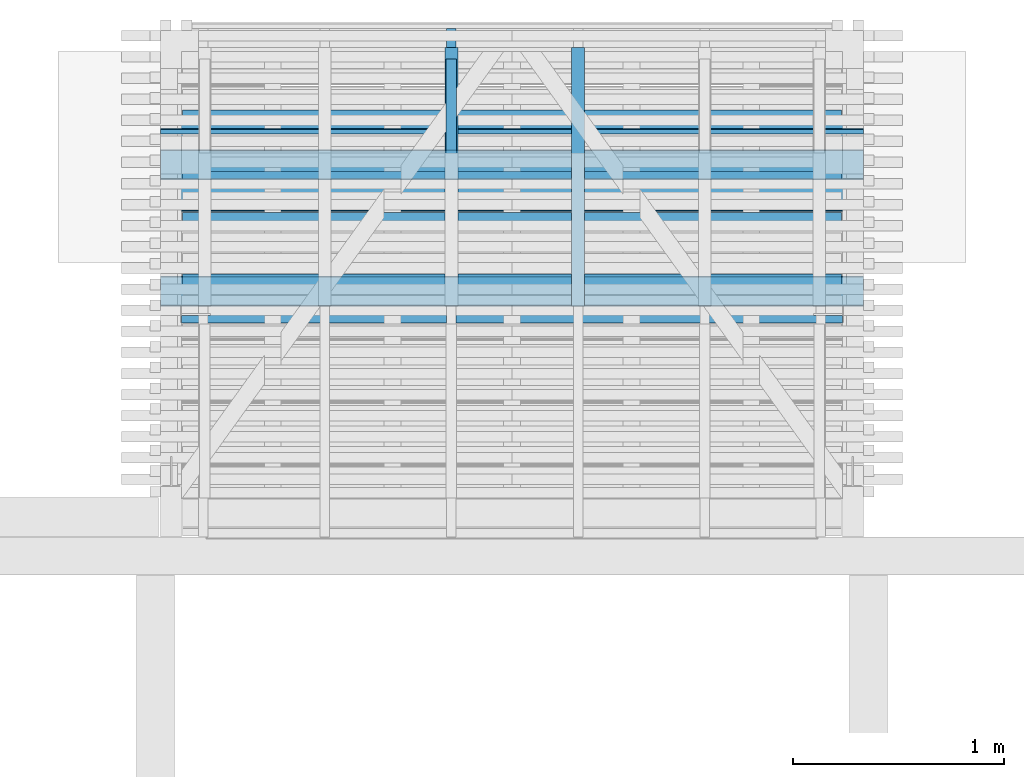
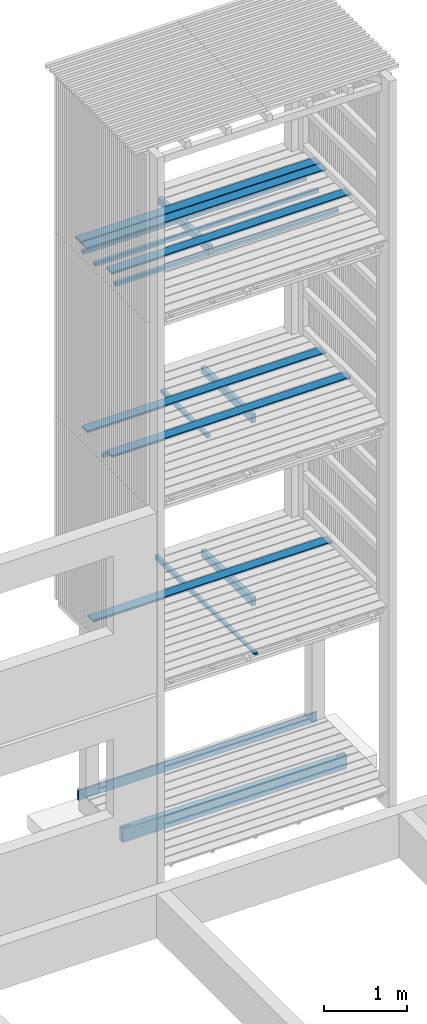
# One storey, part 74 of 182: 17 beams.
"""IFC2X3 building model written with IfcOpenShell, lengths in metres."""

from ifc_helpers import new_model, si_unit, frame, origin, place, context, project, spatial, faceted_brep, element, save


model = new_model("IFC2X3")

# Units and contexts
model_context = context("Model", 3, precision=1e-06, world=origin())
ifc_project = project(units=[si_unit("LENGTHUNIT", "METRE"), si_unit("PLANEANGLEUNIT", "RADIAN")], contexts=[model_context])

# Site, building, storey
site = spatial("IfcSite", under=ifc_project, CompositionType="ELEMENT")
building = spatial("IfcBuilding", under=site, CompositionType="ELEMENT")
storey = spatial("IfcBuildingStorey", under=building, Name="vs", CompositionType="ELEMENT", Elevation=-0.85)

# Beams
placement = place(None, origin())
beam_1_placement = place(placement, frame((25.022999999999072, 11.565077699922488, 2.604249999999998), z_axis=(0.0, 0.0, 1.0), x_axis=(0.0, 1.0, 0.0)))
element("IfcBeam", 1, at=beam_1_placement, inside=storey, Name="Solive", context=model_context, shape_type="Brep", body=[
    faceted_brep([(0.0, -0.030000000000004, -0.06185), (1.225000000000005, -0.030000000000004, -0.06185), (1.225000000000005, -0.030000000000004, 0.037349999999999), (0.0, -0.030000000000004, 0.06185), (0.0, 0.029999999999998, 0.06185), (0.0, 0.029999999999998, -0.06185), (0.0, -0.030000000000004, -0.06185), (0.0, -0.030000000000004, 0.06185), (0.0, -0.030000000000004, -0.06185), (0.0, 0.029999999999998, -0.06185), (1.225000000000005, 0.029999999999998, -0.06185), (1.225000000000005, -0.030000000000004, -0.06185), (1.225000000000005, 0.029999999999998, -0.06185), (0.0, 0.029999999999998, -0.06185), (0.0, 0.029999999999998, 0.06185), (1.225000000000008, 0.029999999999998, 0.037349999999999), (1.225000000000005, -0.030000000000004, 0.037349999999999), (1.225000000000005, -0.030000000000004, -0.06185), (1.225000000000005, 0.029999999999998, -0.06185), (1.225000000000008, 0.029999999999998, 0.037349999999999), (0.0, -0.030000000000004, 0.06185), (1.225000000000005, -0.030000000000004, 0.037349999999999), (1.225000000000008, 0.029999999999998, 0.037349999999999), (0.0, 0.029999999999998, 0.06185)], [[[0, 1, 2, 3]], [[4, 5, 6, 7]], [[8, 9, 10, 11]], [[12, 13, 14, 15]], [[16, 17, 18, 19]], [[20, 21, 22, 23]]]),
])
beam_2_placement = place(placement, frame((26.374999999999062, 12.084577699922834, 2.733499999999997), z_axis=(0.0, 0.0, 1.0), x_axis=(-1.0, -1e-14, 0.0)))
element("IfcBeam", 2, at=beam_2_placement, inside=storey, Name="Caillebotis", context=model_context, shape_type="Brep", body=[
    faceted_brep([(3.329999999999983, -0.072500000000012, -0.013499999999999), (3.329999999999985, 0.072499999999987, -0.013499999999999), (3.329999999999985, 0.072499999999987, 0.0085), (3.329999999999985, 0.067499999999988, 0.013500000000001), (3.329999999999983, -0.067500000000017, 0.013500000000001), (3.329999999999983, -0.072500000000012, 0.008500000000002), (-1.5e-14, -0.072499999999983, 0.008500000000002), (-1.5e-14, -0.067499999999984, 0.013500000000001), (-1.4e-14, 0.067500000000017, 0.0135), (-1.4e-14, 0.072500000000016, 0.008500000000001), (-1.4e-14, 0.072500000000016, -0.013499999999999), (-1.5e-14, -0.072499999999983, -0.013499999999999), (3.329999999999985, 0.072499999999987, 0.0085), (3.329999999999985, 0.072499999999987, -0.013499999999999), (-1.4e-14, 0.072500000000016, -0.013499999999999), (-1.4e-14, 0.072500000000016, 0.008500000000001), (3.329999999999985, 0.067499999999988, 0.013500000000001), (3.329999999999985, 0.072499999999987, 0.0085), (-1.4e-14, 0.072500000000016, 0.008500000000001), (-1.4e-14, 0.067500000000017, 0.0135), (3.329999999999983, -0.067500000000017, 0.013500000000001), (3.329999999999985, 0.067499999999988, 0.013500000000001), (-1.4e-14, 0.067500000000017, 0.0135), (-1.5e-14, -0.067499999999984, 0.013500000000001), (3.329999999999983, -0.072500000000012, 0.008500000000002), (3.329999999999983, -0.067500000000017, 0.013500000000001), (-1.5e-14, -0.067499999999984, 0.013500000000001), (-1.5e-14, -0.072499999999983, 0.008500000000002), (3.329999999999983, -0.072500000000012, -0.013499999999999), (3.329999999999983, -0.072500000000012, 0.008500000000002), (-1.5e-14, -0.072499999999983, 0.008500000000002), (-1.5e-14, -0.072499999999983, -0.013499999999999), (-1.4e-14, 0.072500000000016, -0.013499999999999), (3.329999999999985, 0.072499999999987, -0.013499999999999), (3.329999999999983, -0.072500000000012, -0.013499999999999), (-1.5e-14, -0.072499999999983, -0.013499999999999)], [[[0, 1, 2, 3, 4, 5]], [[6, 7, 8, 9, 10, 11]], [[12, 13, 14, 15]], [[16, 17, 18, 19]], [[20, 21, 22, 23]], [[24, 25, 26, 27]], [[28, 29, 30, 31]], [[32, 33, 34, 35]]]),
])
beam_3_placement = place(placement, frame((26.269999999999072, 11.69216103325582, 7.86739999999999), z_axis=(0.0, 0.0, 1.0), x_axis=(-1.0, 0.0, 0.0)))
element("IfcBeam", 3, at=beam_3_placement, inside=storey, Name="Bardage", context=model_context, shape_type="Brep", body=[
    faceted_brep([(3.120000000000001, 0.024999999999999, -0.024999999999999), (3.120000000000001, 0.024999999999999, 0.025000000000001), (3.120000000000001, -0.024999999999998, 0.025000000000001), (3.120000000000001, -0.024999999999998, -0.024999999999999), (-3e-15, -0.025000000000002, -0.024999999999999), (-3e-15, -0.025000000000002, 0.025000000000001), (-3e-15, 0.024999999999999, 0.025000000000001), (-3e-15, 0.024999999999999, -0.024999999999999), (-3e-15, 0.024999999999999, -0.024999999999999), (-3e-15, 0.024999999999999, 0.025000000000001), (3.120000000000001, 0.024999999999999, 0.025000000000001), (3.120000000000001, 0.024999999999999, -0.024999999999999), (-3e-15, 0.024999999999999, 0.025000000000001), (-3e-15, -0.025000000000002, 0.025000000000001), (3.120000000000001, -0.024999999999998, 0.025000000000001), (3.120000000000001, 0.024999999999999, 0.025000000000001), (-3e-15, -0.025000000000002, 0.025000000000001), (-3e-15, -0.025000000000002, -0.024999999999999), (3.120000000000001, -0.024999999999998, -0.024999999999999), (3.120000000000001, -0.024999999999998, 0.025000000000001), (-3e-15, -0.025000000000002, -0.024999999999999), (-3e-15, 0.024999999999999, -0.024999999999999), (3.120000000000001, 0.024999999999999, -0.024999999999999), (3.120000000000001, -0.024999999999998, -0.024999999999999)], [[[0, 1, 2, 3]], [[4, 5, 6, 7]], [[8, 9, 10, 11]], [[12, 13, 14, 15]], [[16, 17, 18, 19]], [[20, 21, 22, 23]]]),
])
beam_4_placement = place(placement, frame((26.374999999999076, 12.234577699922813, 8.13349999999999), z_axis=(0.0, 0.0, 1.0), x_axis=(-1.0, 0.0, 0.0)))
element("IfcBeam", 4, at=beam_4_placement, inside=storey, Name="Caillebotis", context=model_context, shape_type="Brep", body=[
    faceted_brep([(3.329999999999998, -0.072499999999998, -0.013500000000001), (3.329999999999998, 0.072499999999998, -0.013500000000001), (3.329999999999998, 0.072499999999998, 0.008499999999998), (3.329999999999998, 0.067500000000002, 0.013499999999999), (3.329999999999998, -0.067500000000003, 0.013499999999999), (3.329999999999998, -0.072499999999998, 0.0085), (0.0, -0.072500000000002, 0.0085), (0.0, -0.067500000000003, 0.013499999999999), (0.0, 0.067499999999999, 0.013499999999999), (0.0, 0.072499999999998, 0.008499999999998), (0.0, 0.072499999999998, -0.013500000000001), (0.0, -0.072500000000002, -0.013500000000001), (3.329999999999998, 0.072499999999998, 0.008499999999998), (3.329999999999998, 0.072499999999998, -0.013500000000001), (0.0, 0.072499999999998, -0.013500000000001), (0.0, 0.072499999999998, 0.008499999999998), (3.329999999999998, 0.067500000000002, 0.013499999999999), (3.329999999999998, 0.072499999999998, 0.008499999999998), (0.0, 0.072499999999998, 0.008499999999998), (0.0, 0.067499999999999, 0.013499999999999), (3.329999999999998, -0.067500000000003, 0.013499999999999), (3.329999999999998, 0.067500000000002, 0.013499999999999), (0.0, 0.067499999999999, 0.013499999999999), (0.0, -0.067500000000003, 0.013499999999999), (3.329999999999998, -0.072499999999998, 0.0085), (3.329999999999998, -0.067500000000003, 0.013499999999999), (0.0, -0.067500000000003, 0.013499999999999), (0.0, -0.072500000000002, 0.0085), (3.329999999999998, -0.072499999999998, -0.013500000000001), (3.329999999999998, -0.072499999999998, 0.0085), (0.0, -0.072500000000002, 0.0085), (0.0, -0.072500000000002, -0.013500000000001), (0.0, 0.072499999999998, -0.013500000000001), (3.329999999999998, 0.072499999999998, -0.013500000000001), (3.329999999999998, -0.072499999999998, -0.013500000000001), (0.0, -0.072500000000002, -0.013500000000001)], [[[0, 1, 2, 3, 4, 5]], [[6, 7, 8, 9, 10, 11]], [[12, 13, 14, 15]], [[16, 17, 18, 19]], [[20, 21, 22, 23]], [[24, 25, 26, 27]], [[28, 29, 30, 31]], [[32, 33, 34, 35]]]),
])
beam_5_placement = place(placement, frame((26.374999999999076, 11.634577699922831, 8.13349999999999), z_axis=(0.0, 0.0, 1.0), x_axis=(-1.0, -1e-14, 0.0)))
element("IfcBeam", 5, at=beam_5_placement, inside=storey, Name="Caillebotis", context=model_context, shape_type="Brep", body=[
    faceted_brep([(3.329999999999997, -0.072500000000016, -0.013500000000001), (3.329999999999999, 0.072499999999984, -0.013500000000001), (3.329999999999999, 0.072499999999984, 0.008499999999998), (3.329999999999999, 0.067499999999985, 0.013499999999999), (3.329999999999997, -0.067500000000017, 0.013499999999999), (3.329999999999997, -0.072500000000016, 0.0085), (-1e-15, -0.072499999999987, 0.0085), (-1e-15, -0.067499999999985, 0.013499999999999), (1e-15, 0.067500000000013, 0.013499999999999), (1e-15, 0.072500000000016, 0.008499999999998), (1e-15, 0.072500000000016, -0.013500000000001), (-1e-15, -0.072499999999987, -0.013500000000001), (3.329999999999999, 0.072499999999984, 0.008499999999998), (3.329999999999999, 0.072499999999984, -0.013500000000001), (1e-15, 0.072500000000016, -0.013500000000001), (1e-15, 0.072500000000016, 0.008499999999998), (3.329999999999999, 0.067499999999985, 0.013499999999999), (3.329999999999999, 0.072499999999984, 0.008499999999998), (1e-15, 0.072500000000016, 0.008499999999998), (1e-15, 0.067500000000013, 0.013499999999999), (3.329999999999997, -0.067500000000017, 0.013499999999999), (3.329999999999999, 0.067499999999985, 0.013499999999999), (1e-15, 0.067500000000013, 0.013499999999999), (-1e-15, -0.067499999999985, 0.013499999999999), (3.329999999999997, -0.072500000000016, 0.0085), (3.329999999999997, -0.067500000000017, 0.013499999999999), (-1e-15, -0.067499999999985, 0.013499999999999), (-1e-15, -0.072499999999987, 0.0085), (3.329999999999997, -0.072500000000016, -0.013500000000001), (3.329999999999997, -0.072500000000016, 0.0085), (-1e-15, -0.072499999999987, 0.0085), (-1e-15, -0.072499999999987, -0.013500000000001), (1e-15, 0.072500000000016, -0.013500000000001), (3.329999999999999, 0.072499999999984, -0.013500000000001), (3.329999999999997, -0.072500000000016, -0.013500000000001), (-1e-15, -0.072499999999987, -0.013500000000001)], [[[0, 1, 2, 3, 4, 5]], [[6, 7, 8, 9, 10, 11]], [[12, 13, 14, 15]], [[16, 17, 18, 19]], [[20, 21, 22, 23]], [[24, 25, 26, 27]], [[28, 29, 30, 31]], [[32, 33, 34, 35]]]),
])
beam_6_placement = place(placement, frame((26.269999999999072, 12.468827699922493, 7.86739999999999), z_axis=(0.0, 0.0, 1.0), x_axis=(-1.0, 0.0, 0.0)))
element("IfcBeam", 6, at=beam_6_placement, inside=storey, Name="Bardage", context=model_context, shape_type="Brep", body=[
    faceted_brep([(3.120000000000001, 0.025000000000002, -0.024999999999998), (3.120000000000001, 0.025000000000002, 0.025000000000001), (3.120000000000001, -0.024999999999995, 0.025000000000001), (3.120000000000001, -0.024999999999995, -0.024999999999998), (-3e-15, -0.024999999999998, -0.024999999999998), (-3e-15, -0.024999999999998, 0.025000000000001), (-3e-15, 0.025000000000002, 0.025000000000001), (-3e-15, 0.025000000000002, -0.024999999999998), (-3e-15, 0.025000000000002, -0.024999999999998), (-3e-15, 0.025000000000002, 0.025000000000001), (3.120000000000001, 0.025000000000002, 0.025000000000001), (3.120000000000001, 0.025000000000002, -0.024999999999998), (-3e-15, 0.025000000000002, 0.025000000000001), (-3e-15, -0.024999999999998, 0.025000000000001), (3.120000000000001, -0.024999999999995, 0.025000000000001), (3.120000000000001, 0.025000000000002, 0.025000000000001), (-3e-15, -0.024999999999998, 0.025000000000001), (-3e-15, -0.024999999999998, -0.024999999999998), (3.120000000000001, -0.024999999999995, -0.024999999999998), (3.120000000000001, -0.024999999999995, 0.025000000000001), (-3e-15, -0.024999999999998, -0.024999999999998), (-3e-15, 0.025000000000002, -0.024999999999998), (3.120000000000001, 0.025000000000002, -0.024999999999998), (3.120000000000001, -0.024999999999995, -0.024999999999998)], [[[0, 1, 2, 3]], [[4, 5, 6, 7]], [[8, 9, 10, 11]], [[12, 13, 14, 15]], [[16, 17, 18, 19]], [[20, 21, 22, 23]]]),
])
beam_7_placement = place(placement, frame((25.022999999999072, 11.565077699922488, 5.304249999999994), z_axis=(0.0, 0.0, 1.0), x_axis=(0.0, 1.0, 0.0)))
element("IfcBeam", 7, at=beam_7_placement, inside=storey, Name="Solive", context=model_context, shape_type="Brep", body=[
    faceted_brep([(0.0, -0.030000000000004, -0.061849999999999), (1.225000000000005, -0.030000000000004, -0.061849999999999), (1.225000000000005, -0.030000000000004, 0.03735), (0.0, -0.030000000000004, 0.06185), (0.0, 0.029999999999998, 0.061850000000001), (0.0, 0.029999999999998, -0.061849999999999), (0.0, -0.030000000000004, -0.061849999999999), (0.0, -0.030000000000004, 0.06185), (0.0, -0.030000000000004, -0.061849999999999), (0.0, 0.029999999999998, -0.061849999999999), (1.225000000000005, 0.029999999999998, -0.061849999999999), (1.225000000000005, -0.030000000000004, -0.061849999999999), (1.225000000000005, 0.029999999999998, -0.061849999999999), (0.0, 0.029999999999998, -0.061849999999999), (0.0, 0.029999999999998, 0.061850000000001), (1.225000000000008, 0.029999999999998, 0.03735), (1.225000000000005, -0.030000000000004, 0.03735), (1.225000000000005, -0.030000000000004, -0.061849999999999), (1.225000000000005, 0.029999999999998, -0.061849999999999), (1.225000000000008, 0.029999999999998, 0.03735), (0.0, -0.030000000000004, 0.06185), (1.225000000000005, -0.030000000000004, 0.03735), (1.225000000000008, 0.029999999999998, 0.03735), (0.0, 0.029999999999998, 0.061850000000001)], [[[0, 1, 2, 3]], [[4, 5, 6, 7]], [[8, 9, 10, 11]], [[12, 13, 14, 15]], [[16, 17, 18, 19]], [[20, 21, 22, 23]]]),
])
beam_8_placement = place(placement, frame((24.422999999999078, 11.565077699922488, 8.00424999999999), z_axis=(0.0, 0.0, 1.0), x_axis=(0.0, 1.0, 0.0)))
element("IfcBeam", 8, at=beam_8_placement, inside=storey, Name="Solive", context=model_context, shape_type="Brep", body=[
    faceted_brep([(0.0, -0.029999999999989, -0.061849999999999), (1.225000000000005, -0.029999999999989, -0.061849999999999), (1.225000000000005, -0.029999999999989, 0.037349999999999), (0.0, -0.029999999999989, 0.061849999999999), (0.0, 0.029999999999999, -0.061849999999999), (1.225000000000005, 0.029999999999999, -0.061849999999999), (1.225000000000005, -0.029999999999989, -0.061849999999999), (0.0, -0.029999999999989, -0.061849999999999), (0.0, 0.029999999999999, 0.061850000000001), (0.0, 0.029999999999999, -0.061849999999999), (0.0, -0.029999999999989, -0.061849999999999), (0.0, -0.029999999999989, 0.061849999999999), (1.225000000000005, 0.029999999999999, -0.061849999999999), (0.0, 0.029999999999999, -0.061849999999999), (0.0, 0.029999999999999, 0.061850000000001), (1.225000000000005, 0.029999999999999, 0.037349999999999), (1.225000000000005, -0.029999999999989, 0.037349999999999), (1.225000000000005, -0.029999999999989, -0.061849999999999), (1.225000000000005, 0.029999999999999, -0.061849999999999), (1.225000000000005, 0.029999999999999, 0.037349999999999), (0.0, -0.029999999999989, 0.061849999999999), (1.225000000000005, -0.029999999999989, 0.037349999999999), (1.225000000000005, 0.029999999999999, 0.037349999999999), (0.0, 0.029999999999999, 0.061850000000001)], [[[0, 1, 2, 3]], [[4, 5, 6, 7]], [[8, 9, 10, 11]], [[12, 13, 14, 15]], [[16, 17, 18, 19]], [[20, 21, 22, 23]]]),
])
beam_9_placement = place(placement, frame((26.269999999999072, 11.983411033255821, 5.167399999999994), z_axis=(0.0, 0.0, 1.0), x_axis=(-1.0, 0.0, 0.0)))
element("IfcBeam", 9, at=beam_9_placement, inside=storey, Name="Bardage", context=model_context, shape_type="Brep", body=[
    faceted_brep([(3.120000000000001, 0.024999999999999, -0.024999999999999), (3.120000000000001, 0.024999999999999, 0.025), (3.120000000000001, -0.025000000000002, 0.025), (3.120000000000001, -0.025000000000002, -0.024999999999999), (-3e-15, -0.025000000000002, -0.024999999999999), (-3e-15, -0.025000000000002, 0.025), (-3e-15, 0.024999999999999, 0.025), (-3e-15, 0.024999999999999, -0.024999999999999), (-3e-15, 0.024999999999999, -0.024999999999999), (-3e-15, 0.024999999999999, 0.025), (3.120000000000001, 0.024999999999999, 0.025), (3.120000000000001, 0.024999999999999, -0.024999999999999), (-3e-15, 0.024999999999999, 0.025), (-3e-15, -0.025000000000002, 0.025), (3.120000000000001, -0.025000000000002, 0.025), (3.120000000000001, 0.024999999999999, 0.025), (-3e-15, -0.025000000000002, 0.025), (-3e-15, -0.025000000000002, -0.024999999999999), (3.120000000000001, -0.025000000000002, -0.024999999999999), (3.120000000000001, -0.025000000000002, 0.025), (-3e-15, -0.025000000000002, -0.024999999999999), (-3e-15, 0.024999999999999, -0.024999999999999), (3.120000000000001, 0.024999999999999, -0.024999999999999), (3.120000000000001, -0.025000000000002, -0.024999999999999)], [[[0, 1, 2, 3]], [[4, 5, 6, 7]], [[8, 9, 10, 11]], [[12, 13, 14, 15]], [[16, 17, 18, 19]], [[20, 21, 22, 23]]]),
])
beam_10_placement = place(placement, frame((26.374999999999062, 11.634577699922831, 5.433499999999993), z_axis=(0.0, 0.0, 1.0), x_axis=(-1.0, -1e-14, 0.0)))
element("IfcBeam", 10, at=beam_10_placement, inside=storey, Name="Caillebotis", context=model_context, shape_type="Brep", body=[
    faceted_brep([(3.329999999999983, -0.072500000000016, -0.0135), (3.329999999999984, 0.072499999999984, -0.0135), (3.329999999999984, 0.072499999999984, 0.0085), (3.329999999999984, 0.067499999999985, 0.0135), (3.329999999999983, -0.067500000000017, 0.0135), (3.329999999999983, -0.072500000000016, 0.008500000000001), (-1.5e-14, -0.072499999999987, 0.008500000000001), (-1.5e-14, -0.067499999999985, 0.0135), (-1.4e-14, 0.067500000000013, 0.0135), (-1.4e-14, 0.072500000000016, 0.0085), (-1.4e-14, 0.072500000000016, -0.0135), (-1.5e-14, -0.072499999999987, -0.0135), (3.329999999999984, 0.072499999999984, 0.0085), (3.329999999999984, 0.072499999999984, -0.0135), (-1.4e-14, 0.072500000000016, -0.0135), (-1.4e-14, 0.072500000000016, 0.0085), (3.329999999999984, 0.067499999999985, 0.0135), (3.329999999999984, 0.072499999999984, 0.0085), (-1.4e-14, 0.072500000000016, 0.0085), (-1.4e-14, 0.067500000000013, 0.0135), (3.329999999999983, -0.067500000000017, 0.0135), (3.329999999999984, 0.067499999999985, 0.0135), (-1.4e-14, 0.067500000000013, 0.0135), (-1.5e-14, -0.067499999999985, 0.0135), (3.329999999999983, -0.072500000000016, 0.008500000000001), (3.329999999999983, -0.067500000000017, 0.0135), (-1.5e-14, -0.067499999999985, 0.0135), (-1.5e-14, -0.072499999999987, 0.008500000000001), (3.329999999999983, -0.072500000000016, -0.0135), (3.329999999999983, -0.072500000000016, 0.008500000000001), (-1.5e-14, -0.072499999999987, 0.008500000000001), (-1.5e-14, -0.072499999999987, -0.0135), (-1.4e-14, 0.072500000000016, -0.0135), (3.329999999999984, 0.072499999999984, -0.0135), (3.329999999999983, -0.072500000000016, -0.0135), (-1.5e-14, -0.072499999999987, -0.0135)], [[[0, 1, 2, 3, 4, 5]], [[6, 7, 8, 9, 10, 11]], [[12, 13, 14, 15]], [[16, 17, 18, 19]], [[20, 21, 22, 23]], [[24, 25, 26, 27]], [[28, 29, 30, 31]], [[32, 33, 34, 35]]]),
])
beam_11_placement = place(placement, frame((26.269999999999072, 12.177577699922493, 7.86739999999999), z_axis=(0.0, 0.0, 1.0), x_axis=(-1.0, -1e-15, 0.0)))
element("IfcBeam", 11, at=beam_11_placement, inside=storey, Name="Bardage", context=model_context, shape_type="Brep", body=[
    faceted_brep([(3.119999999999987, -0.025000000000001, 0.025000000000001), (3.119999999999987, -0.025000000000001, -0.024999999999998), (3.120000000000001, 0.024999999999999, -0.024999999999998), (3.120000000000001, 0.024999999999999, 0.025000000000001), (-3e-15, -0.024999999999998, 0.025000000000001), (-3e-15, 0.025000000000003, 0.025000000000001), (-3e-15, 0.025000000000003, -0.024999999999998), (-3e-15, -0.024999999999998, -0.024999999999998), (-3e-15, 0.025000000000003, 0.025000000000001), (-3e-15, -0.024999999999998, 0.025000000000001), (3.119999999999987, -0.025000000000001, 0.025000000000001), (3.120000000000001, 0.024999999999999, 0.025000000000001), (3.120000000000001, 0.024999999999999, 0.025000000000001), (3.120000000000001, 0.024999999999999, -0.024999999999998), (-3e-15, 0.025000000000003, -0.024999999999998), (-3e-15, 0.025000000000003, 0.025000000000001), (3.119999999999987, -0.025000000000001, -0.024999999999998), (3.119999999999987, -0.025000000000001, 0.025000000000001), (-3e-15, -0.024999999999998, 0.025000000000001), (-3e-15, -0.024999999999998, -0.024999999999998), (3.120000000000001, 0.024999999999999, -0.024999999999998), (3.119999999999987, -0.025000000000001, -0.024999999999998), (-3e-15, -0.024999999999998, -0.024999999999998), (-3e-15, 0.025000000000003, -0.024999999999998)], [[[0, 1, 2, 3]], [[4, 5, 6, 7]], [[8, 9, 10, 11]], [[12, 13, 14, 15]], [[16, 17, 18, 19]], [[20, 21, 22, 23]]]),
])
beam_12_placement = place(placement, frame((24.422999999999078, 10.470077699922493, 2.684400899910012), z_axis=(0.0, 0.0, 1.0), x_axis=(0.0, 1.0, 0.0)))
element("IfcBeam", 12, at=beam_12_placement, inside=storey, Name="Calage", context=model_context, shape_type="Brep", body=[
    faceted_brep([(2.410000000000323, -0.022499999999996, -0.035599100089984), (0.0, -0.022499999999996, 0.012600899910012), (0.0, 0.022500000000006, 0.012600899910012), (2.410000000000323, 0.022500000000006, -0.035599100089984), (0.0, 0.022500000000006, 0.035599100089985), (0.0, 0.022500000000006, 0.012600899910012), (0.0, -0.022499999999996, 0.012600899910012), (0.0, -0.022499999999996, 0.035599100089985), (2.410000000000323, 0.022500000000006, -0.035599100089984), (0.0, 0.022500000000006, 0.012600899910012), (0.0, 0.022500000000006, 0.035599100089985), (2.410000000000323, 0.022500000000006, 0.035599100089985), (2.410000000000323, -0.022499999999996, 0.035599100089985), (0.0, -0.022499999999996, 0.035599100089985), (0.0, -0.022499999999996, 0.012600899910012), (2.410000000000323, -0.022499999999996, -0.035599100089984), (2.410000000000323, 0.022500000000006, 0.035599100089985), (0.0, 0.022500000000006, 0.035599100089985), (0.0, -0.022499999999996, 0.035599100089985), (2.410000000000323, -0.022499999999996, 0.035599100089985), (2.410000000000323, 0.022500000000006, -0.035599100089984), (2.410000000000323, 0.022500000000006, 0.035599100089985), (2.410000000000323, -0.022499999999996, 0.035599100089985), (2.410000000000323, -0.022499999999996, -0.035599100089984)], [[[0, 1, 2, 3]], [[4, 5, 6, 7]], [[8, 9, 10, 11]], [[12, 13, 14, 15]], [[16, 17, 18, 19]], [[20, 21, 22, 23]]]),
])
beam_13_placement = place(placement, frame((24.422999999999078, 12.735077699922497, 5.217399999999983), z_axis=(0.0, 0.0, 1.0), x_axis=(0.0, -1.0, 0.0)))
element("IfcBeam", 13, at=beam_13_placement, inside=storey, Name="Calage", context=model_context, shape_type="Brep", body=[
    faceted_brep([(1.115000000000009, 0.024999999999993, 0.024999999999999), (1.115000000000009, -0.025000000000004, 0.024999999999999), (1.115000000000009, -0.025000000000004, -0.025), (1.115000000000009, 0.024999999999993, -0.025), (0.0, -0.025000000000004, -0.025), (0.0, -0.025000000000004, 0.024999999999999), (0.0, 0.024999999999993, 0.024999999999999), (0.0, 0.024999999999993, -0.025), (1.115000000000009, -0.025000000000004, 0.024999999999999), (1.115000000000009, 0.024999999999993, 0.024999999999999), (0.0, 0.024999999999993, 0.024999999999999), (0.0, -0.025000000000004, 0.024999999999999), (1.115000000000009, -0.025000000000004, -0.025), (1.115000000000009, -0.025000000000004, 0.024999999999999), (0.0, -0.025000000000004, 0.024999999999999), (0.0, -0.025000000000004, -0.025), (1.115000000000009, 0.024999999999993, -0.025), (1.115000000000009, -0.025000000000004, -0.025), (0.0, -0.025000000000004, -0.025), (0.0, 0.024999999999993, -0.025), (0.0, 0.024999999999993, 0.024999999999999), (1.115000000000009, 0.024999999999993, 0.024999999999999), (1.115000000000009, 0.024999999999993, -0.025), (0.0, 0.024999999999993, -0.025)], [[[0, 1, 2, 3]], [[4, 5, 6, 7]], [[8, 9, 10, 11]], [[12, 13, 14, 15]], [[16, 17, 18, 19]], [[20, 21, 22, 23]]]),
])
beam_14_placement = place(placement, frame((26.374999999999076, 12.234577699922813, 5.433499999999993), z_axis=(0.0, 0.0, 1.0), x_axis=(-1.0, 0.0, 0.0)))
element("IfcBeam", 14, at=beam_14_placement, inside=storey, Name="Caillebotis", context=model_context, shape_type="Brep", body=[
    faceted_brep([(3.329999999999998, -0.072499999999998, -0.0135), (3.329999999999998, 0.072499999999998, -0.0135), (3.329999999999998, 0.072499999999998, 0.0085), (3.329999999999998, 0.067500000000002, 0.0135), (3.329999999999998, -0.067500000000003, 0.0135), (3.329999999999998, -0.072499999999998, 0.008500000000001), (0.0, -0.072500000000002, 0.008500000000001), (0.0, -0.067500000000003, 0.0135), (0.0, 0.067499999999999, 0.0135), (0.0, 0.072499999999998, 0.0085), (0.0, 0.072499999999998, -0.0135), (0.0, -0.072500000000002, -0.0135), (3.329999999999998, 0.072499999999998, 0.0085), (3.329999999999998, 0.072499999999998, -0.0135), (0.0, 0.072499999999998, -0.0135), (0.0, 0.072499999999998, 0.0085), (3.329999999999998, 0.067500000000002, 0.0135), (3.329999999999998, 0.072499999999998, 0.0085), (0.0, 0.072499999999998, 0.0085), (0.0, 0.067499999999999, 0.0135), (3.329999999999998, -0.067500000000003, 0.0135), (3.329999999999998, 0.067500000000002, 0.0135), (0.0, 0.067499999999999, 0.0135), (0.0, -0.067500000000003, 0.0135), (3.329999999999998, -0.072499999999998, 0.008500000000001), (3.329999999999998, -0.067500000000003, 0.0135), (0.0, -0.067500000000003, 0.0135), (0.0, -0.072500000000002, 0.008500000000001), (3.329999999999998, -0.072499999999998, -0.0135), (3.329999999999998, -0.072499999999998, 0.008500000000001), (0.0, -0.072500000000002, 0.008500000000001), (0.0, -0.072500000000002, -0.0135), (0.0, 0.072499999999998, -0.0135), (3.329999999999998, 0.072499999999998, -0.0135), (3.329999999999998, -0.072499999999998, -0.0135), (0.0, -0.072500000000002, -0.0135)], [[[0, 1, 2, 3, 4, 5]], [[6, 7, 8, 9, 10, 11]], [[12, 13, 14, 15]], [[16, 17, 18, 19]], [[20, 21, 22, 23]], [[24, 25, 26, 27]], [[28, 29, 30, 31]], [[32, 33, 34, 35]]]),
])
beam_15_placement = place(placement, frame((26.374999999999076, 12.384577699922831, 8.13349999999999), z_axis=(0.0, 0.0, 1.0), x_axis=(-1.0, -1e-14, 0.0)))
element("IfcBeam", 15, at=beam_15_placement, inside=storey, Name="Caillebotis", context=model_context, shape_type="Brep", body=[
    faceted_brep([(3.329999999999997, -0.072500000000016, -0.013500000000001), (3.329999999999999, 0.072499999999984, -0.013500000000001), (3.329999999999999, 0.072499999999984, 0.008499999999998), (3.329999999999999, 0.067499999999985, 0.013499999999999), (3.329999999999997, -0.067500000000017, 0.013499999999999), (3.329999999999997, -0.072500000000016, 0.0085), (-1e-15, -0.072499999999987, 0.0085), (-1e-15, -0.067499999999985, 0.013499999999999), (1e-15, 0.067500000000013, 0.013499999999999), (1e-15, 0.072500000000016, 0.008499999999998), (1e-15, 0.072500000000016, -0.013500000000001), (-1e-15, -0.072499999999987, -0.013500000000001), (3.329999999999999, 0.072499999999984, 0.008499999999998), (3.329999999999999, 0.072499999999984, -0.013500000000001), (1e-15, 0.072500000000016, -0.013500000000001), (1e-15, 0.072500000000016, 0.008499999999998), (3.329999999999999, 0.067499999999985, 0.013499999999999), (3.329999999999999, 0.072499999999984, 0.008499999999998), (1e-15, 0.072500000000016, 0.008499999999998), (1e-15, 0.067500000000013, 0.013499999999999), (3.329999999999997, -0.067500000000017, 0.013499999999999), (3.329999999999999, 0.067499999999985, 0.013499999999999), (1e-15, 0.067500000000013, 0.013499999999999), (-1e-15, -0.067499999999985, 0.013499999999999), (3.329999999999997, -0.072500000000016, 0.0085), (3.329999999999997, -0.067500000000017, 0.013499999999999), (-1e-15, -0.067499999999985, 0.013499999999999), (-1e-15, -0.072499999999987, 0.0085), (3.329999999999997, -0.072500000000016, -0.013500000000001), (3.329999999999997, -0.072500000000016, 0.0085), (-1e-15, -0.072499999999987, 0.0085), (-1e-15, -0.072499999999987, -0.013500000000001), (1e-15, 0.072500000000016, -0.013500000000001), (3.329999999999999, 0.072499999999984, -0.013500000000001), (3.329999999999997, -0.072500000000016, -0.013500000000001), (-1e-15, -0.072499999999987, -0.013500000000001)], [[[0, 1, 2, 3, 4, 5]], [[6, 7, 8, 9, 10, 11]], [[12, 13, 14, 15]], [[16, 17, 18, 19]], [[20, 21, 22, 23]], [[24, 25, 26, 27]], [[28, 29, 30, 31]], [[32, 33, 34, 35]]]),
])
beam_16_placement = place(placement, frame((26.274999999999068, 11.525077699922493, -0.143899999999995), z_axis=(0.0, 0.0, 1.0), x_axis=(-1.0, -2e-15, 0.0)))
element("IfcBeam", 16, at=beam_16_placement, inside=storey, Name="Sommier", context=model_context, shape_type="Brep", body=[
    faceted_brep([(0.137000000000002, -0.003999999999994, 0.1), (0.137000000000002, -0.003999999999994, -0.1), (1e-15, -0.003999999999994, -0.1), (1e-15, -0.003999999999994, 0.1), (0.137000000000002, 0.004000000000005, -0.1), (0.137000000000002, -0.003999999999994, -0.1), (0.137000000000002, -0.003999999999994, 0.1), (0.137000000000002, 0.004000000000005, 0.1), (0.137000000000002, 0.004000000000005, -0.1), (0.137000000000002, 0.004000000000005, 0.1), (1e-15, 0.004000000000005, 0.1), (1e-15, 0.004000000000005, -0.1), (1e-15, -0.003999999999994, 0.1), (1e-15, -0.003999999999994, -0.1), (1e-15, -0.039999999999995, -0.1), (1e-15, -0.039999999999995, 0.1), (1e-15, 0.040000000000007, 0.1), (1e-15, 0.040000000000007, -0.1), (1e-15, 0.004000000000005, -0.1), (1e-15, 0.004000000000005, 0.1), (3.129999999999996, 0.004000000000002, 0.1), (2.992999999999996, 0.004000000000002, 0.1), (2.992999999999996, 0.004000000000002, -0.1), (3.129999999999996, 0.004000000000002, -0.1), (2.992999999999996, -0.004000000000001, 0.1), (2.992999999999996, -0.004000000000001, -0.1), (2.992999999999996, 0.004000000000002, -0.1), (2.992999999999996, 0.004000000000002, 0.1), (3.129999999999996, -0.004000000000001, -0.1), (2.992999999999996, -0.004000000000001, -0.1), (2.992999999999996, -0.004000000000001, 0.1), (3.129999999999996, -0.004000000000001, 0.1), (3.129999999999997, 0.04, 0.1), (3.129999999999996, 0.004000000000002, 0.1), (3.129999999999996, 0.004000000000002, -0.1), (3.129999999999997, 0.04, -0.1), (3.129999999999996, -0.040000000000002, 0.1), (3.129999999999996, -0.040000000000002, -0.1), (3.129999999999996, -0.004000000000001, -0.1), (3.129999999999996, -0.004000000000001, 0.1), (1e-15, -0.039999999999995, -0.1), (1e-15, -0.003999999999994, -0.1), (0.137000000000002, -0.003999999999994, -0.1), (0.137000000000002, 0.004000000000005, -0.1), (1e-15, 0.004000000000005, -0.1), (1e-15, 0.040000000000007, -0.1), (3.129999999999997, 0.04, -0.1), (3.129999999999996, 0.004000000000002, -0.1), (2.992999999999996, 0.004000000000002, -0.1), (2.992999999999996, -0.004000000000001, -0.1), (3.129999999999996, -0.004000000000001, -0.1), (3.129999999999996, -0.040000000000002, -0.1), (2.992999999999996, 0.004000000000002, 0.1), (3.129999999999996, 0.004000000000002, 0.1), (3.129999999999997, 0.04, 0.1), (1e-15, 0.040000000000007, 0.1), (1e-15, 0.004000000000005, 0.1), (0.137000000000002, 0.004000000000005, 0.1), (0.137000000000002, -0.003999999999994, 0.1), (1e-15, -0.003999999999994, 0.1), (1e-15, -0.039999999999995, 0.1), (3.129999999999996, -0.040000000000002, 0.1), (3.129999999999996, -0.004000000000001, 0.1), (2.992999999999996, -0.004000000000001, 0.1), (1e-15, 0.040000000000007, 0.1), (3.129999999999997, 0.04, 0.1), (3.129999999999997, 0.04, -0.1), (1e-15, 0.040000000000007, -0.1), (1e-15, -0.039999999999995, -0.1), (3.129999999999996, -0.040000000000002, -0.1), (3.129999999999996, -0.040000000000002, 0.1), (1e-15, -0.039999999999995, 0.1)], [[[0, 1, 2, 3]], [[4, 5, 6, 7]], [[8, 9, 10, 11]], [[12, 13, 14, 15]], [[16, 17, 18, 19]], [[20, 21, 22, 23]], [[24, 25, 26, 27]], [[28, 29, 30, 31]], [[32, 33, 34, 35]], [[36, 37, 38, 39]], [[40, 41, 42, 43, 44, 45, 46, 47, 48, 49, 50, 51]], [[52, 53, 54, 55, 56, 57, 58, 59, 60, 61, 62, 63]], [[64, 65, 66, 67]], [[68, 69, 70, 71]]]),
])
beam_17_placement = place(placement, frame((23.044999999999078, 12.393577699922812, -0.0575), z_axis=(0.0, 0.0, -1.0), x_axis=(1.0, 0.0, 0.0)))
element("IfcBeam", 17, at=beam_17_placement, inside=storey, Name="Caillebotis", context=model_context, shape_type="Brep", body=[
    faceted_brep([(2e-15, -0.008499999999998, -0.0725), (2e-15, -0.0135, -0.067500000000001), (2e-15, -0.0135, 0.067500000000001), (2e-15, -0.008500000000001, 0.0725), (2e-15, 0.013500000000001, 0.0725), (2e-15, 0.013500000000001, -0.0725), (3.329999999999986, 0.013499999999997, -0.0725), (3.329999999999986, 0.013499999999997, 0.0725), (3.329999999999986, -0.008500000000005, 0.0725), (3.329999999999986, -0.0135, 0.067500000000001), (3.329999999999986, -0.0135, -0.067500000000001), (3.329999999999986, -0.008500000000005, -0.0725), (2e-15, -0.0135, 0.067500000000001), (2e-15, -0.0135, -0.067500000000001), (3.329999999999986, -0.0135, -0.067500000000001), (3.329999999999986, -0.0135, 0.067500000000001), (2e-15, -0.008500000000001, 0.0725), (2e-15, -0.0135, 0.067500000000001), (3.329999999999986, -0.0135, 0.067500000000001), (3.329999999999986, -0.008500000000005, 0.0725), (2e-15, 0.013500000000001, 0.0725), (2e-15, -0.008500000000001, 0.0725), (3.329999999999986, -0.008500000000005, 0.0725), (3.329999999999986, 0.013499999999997, 0.0725), (2e-15, 0.013500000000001, -0.0725), (2e-15, 0.013500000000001, 0.0725), (3.329999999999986, 0.013499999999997, 0.0725), (3.329999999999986, 0.013499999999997, -0.0725), (2e-15, -0.008499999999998, -0.0725), (2e-15, 0.013500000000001, -0.0725), (3.329999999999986, 0.013499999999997, -0.0725), (3.329999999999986, -0.008500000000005, -0.0725), (3.329999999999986, -0.0135, -0.067500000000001), (2e-15, -0.0135, -0.067500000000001), (2e-15, -0.008499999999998, -0.0725), (3.329999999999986, -0.008500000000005, -0.0725)], [[[0, 1, 2, 3, 4, 5]], [[6, 7, 8, 9, 10, 11]], [[12, 13, 14, 15]], [[16, 17, 18, 19]], [[20, 21, 22, 23]], [[24, 25, 26, 27]], [[28, 29, 30, 31]], [[32, 33, 34, 35]]]),
])

save(model, "model.ifc")
